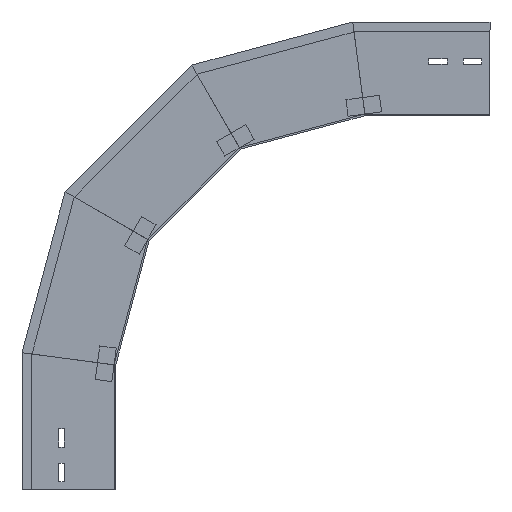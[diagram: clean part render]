
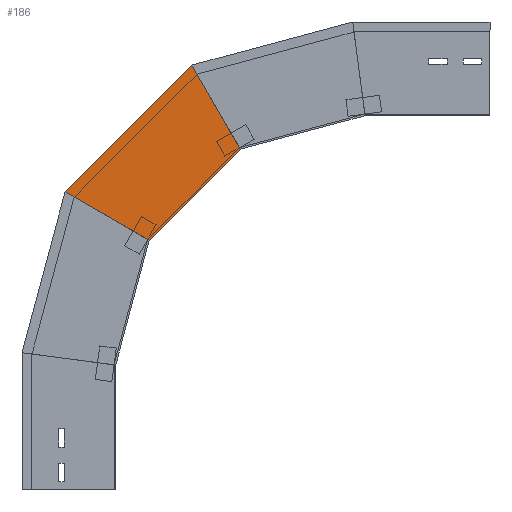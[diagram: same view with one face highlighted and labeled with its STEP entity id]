
A CAD part, left-side view. The second image highlights one B-rep face of the part: STEP entity #186.
In plain terms, the highlighted planar face has unit normal (-1, 0, 0) as drawn and (1, 0, 0) by its records, which use the part's own axes.
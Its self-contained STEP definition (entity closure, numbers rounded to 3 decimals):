
#33 = CARTESIAN_POINT ( 'NONE',  ( 0., -78.533, 277.539 ) ) ;
#160 = DIRECTION ( 'NONE',  ( 0., 0., -1. ) ) ;
#174 = LINE ( 'NONE', #1363, #975 ) ;
#175 = FACE_OUTER_BOUND ( 'NONE', #962, .T. ) ;
#186 = ADVANCED_FACE ( 'NONE', ( #175 ), #1497, .T. ) ;
#211 = LINE ( 'NONE', #33, #1873 ) ;
#217 = VERTEX_POINT ( 'NONE', #1087 ) ;
#223 = ORIENTED_EDGE ( 'NONE', *, *, #335, .T. ) ;
#248 = EDGE_CURVE ( 'NONE', #494, #277, #211, .T. ) ;
#262 = VECTOR ( 'NONE', #446, 1000. ) ;
#277 = VERTEX_POINT ( 'NONE', #359 ) ;
#335 = EDGE_CURVE ( 'NONE', #494, #479, #1147, .T. ) ;
#359 = CARTESIAN_POINT ( 'NONE',  ( 0., -40.117, 299.719 ) ) ;
#446 = DIRECTION ( 'NONE',  ( 0., -0.707, 0.707 ) ) ;
#449 = VECTOR ( 'NONE', #1268, 1000. ) ;
#479 = VERTEX_POINT ( 'NONE', #728 ) ;
#494 = VERTEX_POINT ( 'NONE', #1176 ) ;
#530 = ORIENTED_EDGE ( 'NONE', *, *, #586, .T. ) ;
#559 = AXIS2_PLACEMENT_3D ( 'NONE', #1208, #1640, #160 ) ;
#586 = EDGE_CURVE ( 'NONE', #479, #217, #174, .T. ) ;
#728 = CARTESIAN_POINT ( 'NONE',  ( 0., -91.484, 510.185 ) ) ;
#906 = CARTESIAN_POINT ( 'NONE',  ( 0., -16.599, 276.201 ) ) ;
#940 = ORIENTED_EDGE ( 'NONE', *, *, #1762, .F. ) ;
#962 = EDGE_LOOP ( 'NONE', ( #223, #530, #940, #1447 ) ) ;
#975 = VECTOR ( 'NONE', #1392, 1000. ) ;
#1087 = CARTESIAN_POINT ( 'NONE',  ( 0., -149.719, 409.32 ) ) ;
#1147 = LINE ( 'NONE', #1299, #449 ) ;
#1176 = CARTESIAN_POINT ( 'NONE',  ( 0., 60.748, 357.953 ) ) ;
#1208 = CARTESIAN_POINT ( 'NONE',  ( 0., -16.599, 276.201 ) ) ;
#1227 = DIRECTION ( 'NONE',  ( 0., -0.866, -0.5 ) ) ;
#1268 = DIRECTION ( 'NONE',  ( 0., -0.707, 0.707 ) ) ;
#1299 = CARTESIAN_POINT ( 'NONE',  ( 0., 62.95, 355.751 ) ) ;
#1363 = CARTESIAN_POINT ( 'NONE',  ( 0., -174.081, 367.123 ) ) ;
#1392 = DIRECTION ( 'NONE',  ( 0., -0.5, -0.866 ) ) ;
#1447 = ORIENTED_EDGE ( 'NONE', *, *, #248, .F. ) ;
#1483 = LINE ( 'NONE', #906, #262 ) ;
#1497 = PLANE ( 'NONE',  #559 ) ;
#1640 = DIRECTION ( 'NONE',  ( 1., 0., 0. ) ) ;
#1762 = EDGE_CURVE ( 'NONE', #277, #217, #1483, .T. ) ;
#1873 = VECTOR ( 'NONE', #1227, 1000. ) ;
